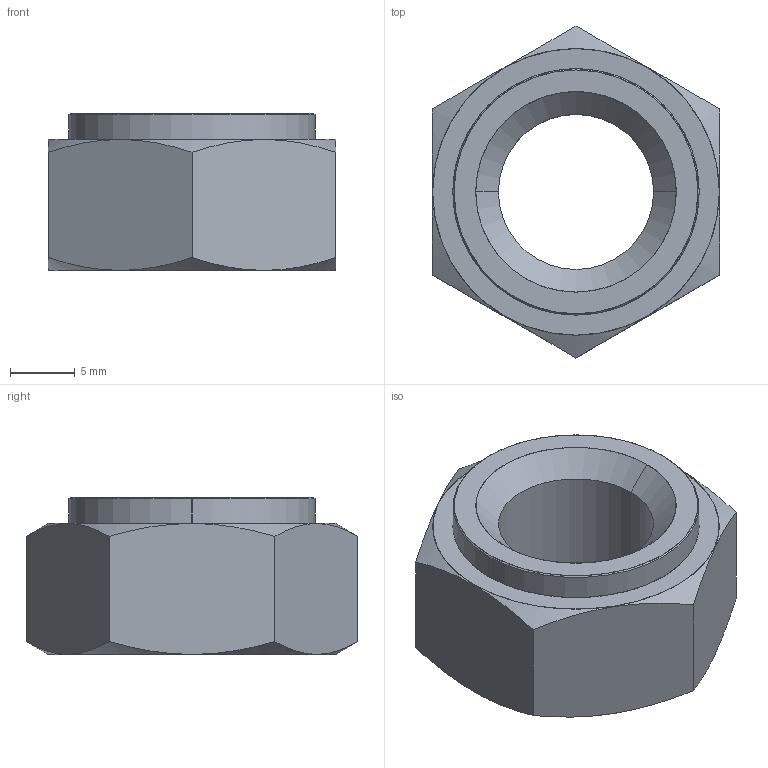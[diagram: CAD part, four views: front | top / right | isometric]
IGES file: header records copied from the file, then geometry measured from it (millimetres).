
Start section: SolidWorks IGES file using analytic representation for surfaces
Global section: file name: C:\Users\liam_\OneDrive\Desktop\Work\Mat Davis Pending 20181125\automotion\P SERIES\P0827.ZP_v2\P0827.ZP_v2_20181231_IGES\P0827.100-16G-ZP.igs; native system: SolidWorks 2017; preprocessor: SolidWorks 2017; author: liam_; date: 181231.111039; units: millimetre
Bounding box: 22.22 x 25.66 x 12.16 mm (x, y, z)
Surface area: 1874.1 mm2 (no closed solid volume)
Topology: 0 solids, 0 shells, 23 faces, 448 edges, 448 vertices
Faces by surface type: revolution 14, bspline 9
